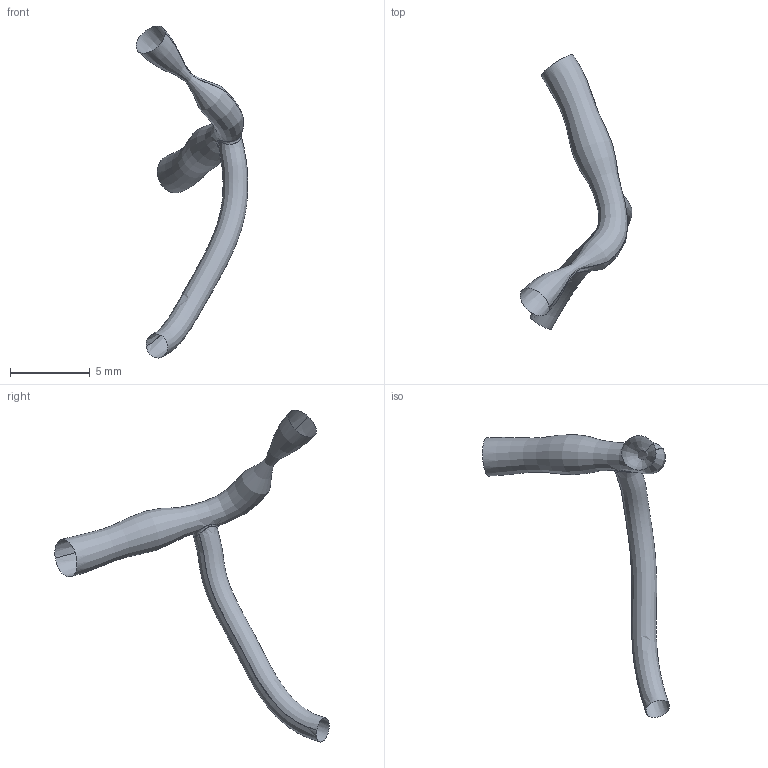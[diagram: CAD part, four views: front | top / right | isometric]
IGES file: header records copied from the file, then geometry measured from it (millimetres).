
Global section: file name: C:\Documents and Settings\Administrator\Desktop\FDA Bifurcation win\RawData_for_IGES\HRCA_Data\20000607.162451\IGES\20000607.162451.RM1.BIFUR.ED.igs; native system: Rhinoceros ( May 19 2006 ); preprocessor: Trout Lake IGES 012 May 19 2006; date: 100728.201346; units: centimetre
Bounding box: 7 x 17.18 x 20.79 mm (x, y, z)
Surface area: 200.2 mm2 (no closed solid volume)
Topology: 0 solids, 0 shells, 3 faces, 41 edges, 36 vertices
Faces by surface type: bspline 3
